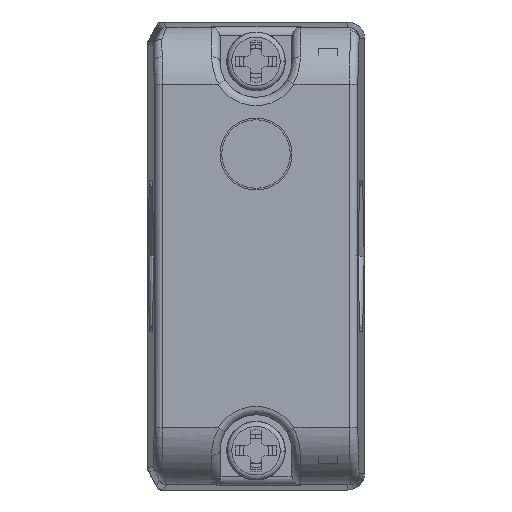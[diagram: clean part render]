
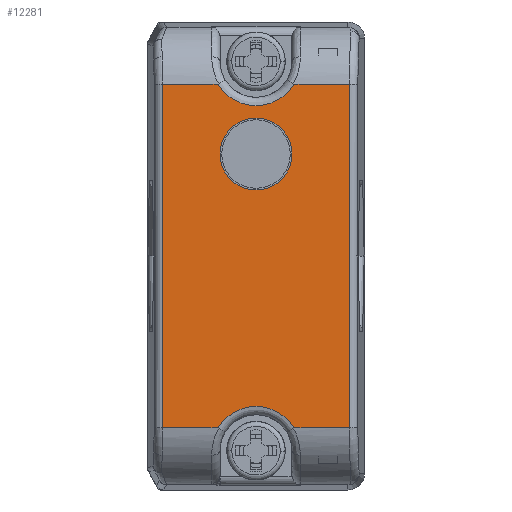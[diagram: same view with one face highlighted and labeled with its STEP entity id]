
A CAD part, front view. The second image highlights one B-rep face of the part: STEP entity #12281.
In plain terms, the highlighted planar face has unit normal (0, -1, 0) as drawn and (0, 1, 0) by its records, which use the part's own axes.
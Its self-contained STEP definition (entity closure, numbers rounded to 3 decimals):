
#8820=DIRECTION('',(-1.,0.,0.));
#8821=VECTOR('',#8820,20.562);
#8822=CARTESIAN_POINT('',(10.281,12.,5.598));
#8823=LINE('',#8822,#8821);
#8995=DIRECTION('',(0.,0.,-1.));
#8996=VECTOR('',#8995,3.329);
#8997=CARTESIAN_POINT('',(-10.281,12.,
-2.269));
#8998=LINE('',#8997,#8996);
#9123=CARTESIAN_POINT('',(10.281,12.,-5.598));
#9138=DIRECTION('',(1.,0.,0.));
#9139=VECTOR('',#9138,20.562);
#9140=CARTESIAN_POINT('',(-10.281,12.,
-5.598));
#9141=LINE('',#9140,#9139);
#9265=CARTESIAN_POINT('',(10.281,12.,-2.271));
#9272=DIRECTION('',(0.,0.,1.));
#9273=VECTOR('',#9272,3.327);
#9274=CARTESIAN_POINT('',(10.281,12.,-5.598));
#9275=LINE('',#9274,#9273);
#9365=DIRECTION('',(0.,0.,1.));
#9366=VECTOR('',#9365,3.327);
#9367=CARTESIAN_POINT('',(10.281,12.,2.271));
#9368=LINE('',#9367,#9366);
#9376=CARTESIAN_POINT('',(-11.65,12.,0.));
#9377=DIRECTION('',(0.,-1.,0.));
#9378=DIRECTION('',(0.517,0.,-0.856));
#9379=AXIS2_PLACEMENT_3D('',#9376,#9377,#9378);
#9381=CARTESIAN_POINT('',(11.647,12.,0.));
#9382=DIRECTION('',(0.,-1.,0.));
#9383=DIRECTION('',(-0.515,0.,0.857));
#9384=AXIS2_PLACEMENT_3D('',#9381,#9382,#9383);
#9386=CARTESIAN_POINT('',(6.1,12.,0.));
#9387=DIRECTION('',(0.,-1.,0.));
#9388=DIRECTION('',(0.,0.,-1.));
#9389=AXIS2_PLACEMENT_3D('',#9386,#9387,#9388);
#9391=CARTESIAN_POINT('',(6.1,12.,0.));
#9392=DIRECTION('',(0.,-1.,0.));
#9393=DIRECTION('',(0.,0.,1.));
#9394=AXIS2_PLACEMENT_3D('',#9391,#9392,#9393);
#9396=DIRECTION('',(0.,0.,-1.));
#9397=VECTOR('',#9396,3.329);
#9398=CARTESIAN_POINT('',(-10.281,12.,5.598));
#9399=LINE('',#9398,#9397);
#10405=CARTESIAN_POINT('',(-10.281,12.,
-2.269));
#10406=CARTESIAN_POINT('',(-10.281,12.,
-5.598));
#10407=VERTEX_POINT('',#10405);
#10408=VERTEX_POINT('',#10406);
#10440=CARTESIAN_POINT('',(6.1,12.,-2.15));
#10441=CARTESIAN_POINT('',(6.1,12.,2.15));
#10442=VERTEX_POINT('',#10440);
#10443=VERTEX_POINT('',#10441);
#10513=CARTESIAN_POINT('',(10.281,12.,2.271));
#10514=CARTESIAN_POINT('',(10.281,12.,5.598));
#10515=VERTEX_POINT('',#10513);
#10516=VERTEX_POINT('',#10514);
#10530=VERTEX_POINT('',#9123);
#10559=CARTESIAN_POINT('',(-10.281,12.,
5.598));
#10560=CARTESIAN_POINT('',(-10.281,12.,
2.269));
#10561=VERTEX_POINT('',#10559);
#10562=VERTEX_POINT('',#10560);
#10607=VERTEX_POINT('',#9265);
#12258=CARTESIAN_POINT('',(0.,12.,0.));
#12259=DIRECTION('',(0.,1.,0.));
#12260=DIRECTION('',(0.,0.,1.));
#12261=AXIS2_PLACEMENT_3D('',#12258,#12259,#12260);
#12262=PLANE('',#12261);
#12263=ORIENTED_EDGE('',*,*,#12252,.T.);
#12264=ORIENTED_EDGE('',*,*,#11575,.T.);
#12266=ORIENTED_EDGE('',*,*,#12265,.T.);
#12268=ORIENTED_EDGE('',*,*,#12267,.F.);
#12269=ORIENTED_EDGE('',*,*,#11873,.T.);
#12270=ORIENTED_EDGE('',*,*,#12057,.T.);
#12271=ORIENTED_EDGE('',*,*,#12215,.T.);
#12272=ORIENTED_EDGE('',*,*,#12237,.F.);
#12273=EDGE_LOOP('',(#12263,#12264,#12266,#12268,#12269,#12270,#12271,#12272));
#12274=FACE_OUTER_BOUND('',#12273,.F.);
#12276=ORIENTED_EDGE('',*,*,#12275,.F.);
#12278=ORIENTED_EDGE('',*,*,#12277,.F.);
#12279=EDGE_LOOP('',(#12276,#12278));
#12280=FACE_BOUND('',#12279,.F.);
#12281=ADVANCED_FACE('',(#12274,#12280),#12262,.T.);
#9380=CIRCLE('',#9379,2.65);
#9385=CIRCLE('',#9384,2.65);
#9390=CIRCLE('',#9389,2.15);
#9395=CIRCLE('',#9394,2.15);
#11575=EDGE_CURVE('',#10516,#10561,#8823,.T.);
#11873=EDGE_CURVE('',#10407,#10408,#8998,.T.);
#12057=EDGE_CURVE('',#10408,#10530,#9141,.T.);
#12215=EDGE_CURVE('',#10530,#10607,#9275,.T.);
#12237=EDGE_CURVE('',#10515,#10607,#9385,.T.);
#12252=EDGE_CURVE('',#10515,#10516,#9368,.T.);
#12265=EDGE_CURVE('',#10561,#10562,#9399,.T.);
#12267=EDGE_CURVE('',#10407,#10562,#9380,.T.);
#12275=EDGE_CURVE('',#10442,#10443,#9390,.T.);
#12277=EDGE_CURVE('',#10443,#10442,#9395,.T.);
